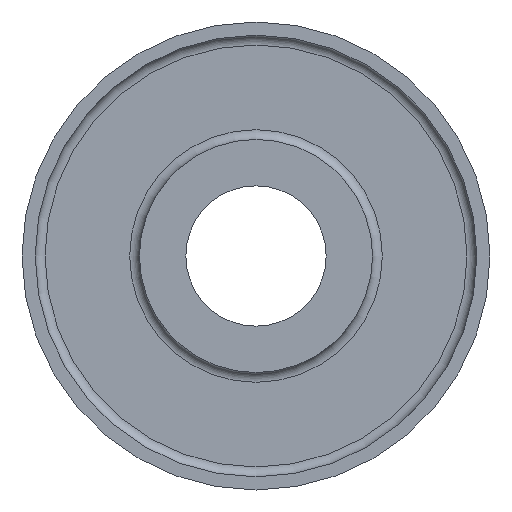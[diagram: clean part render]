
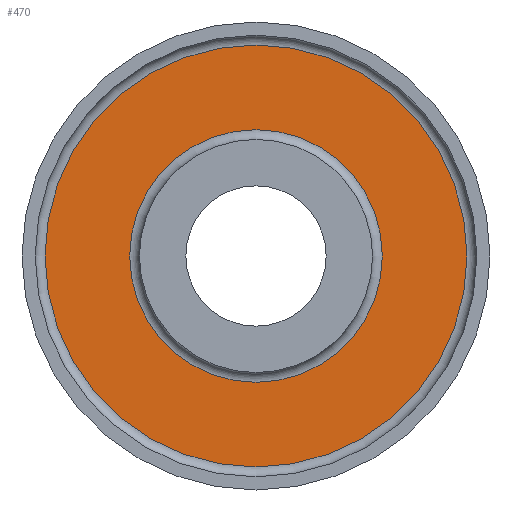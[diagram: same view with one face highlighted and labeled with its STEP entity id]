
A CAD part, left-side view. The second image highlights one B-rep face of the part: STEP entity #470.
In plain terms, the highlighted planar face has unit normal (-1, 0, 0).
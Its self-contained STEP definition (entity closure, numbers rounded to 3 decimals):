
#26=PLANE('',#543);
#40=FACE_BOUND('',#123,.T.);
#78=FACE_OUTER_BOUND('',#122,.T.);
#122=EDGE_LOOP('',(#421));
#123=EDGE_LOOP('',(#422));
#168=CIRCLE('',#542,103.);
#169=CIRCLE('',#544,172.);
#236=VERTEX_POINT('',#988);
#237=VERTEX_POINT('',#991);
#299=EDGE_CURVE('',#236,#236,#168,.T.);
#300=EDGE_CURVE('',#237,#237,#169,.T.);
#421=ORIENTED_EDGE('',*,*,#300,.F.);
#422=ORIENTED_EDGE('',*,*,#299,.T.);
#470=ADVANCED_FACE('',(#78,#40),#26,.T.);
#542=AXIS2_PLACEMENT_3D('',#989,#684,#685);
#543=AXIS2_PLACEMENT_3D('',#990,#686,#687);
#544=AXIS2_PLACEMENT_3D('',#992,#688,#689);
#684=DIRECTION('center_axis',(1.,0.,0.));
#685=DIRECTION('ref_axis',(0.,0.,-1.));
#686=DIRECTION('center_axis',(-1.,0.,0.));
#687=DIRECTION('ref_axis',(0.,0.,1.));
#688=DIRECTION('center_axis',(1.,0.,0.));
#689=DIRECTION('ref_axis',(0.,0.,-1.));
#988=CARTESIAN_POINT('',(58.139,86.439,0.));
#989=CARTESIAN_POINT('Origin',(58.139,-16.561,0.));
#990=CARTESIAN_POINT('Origin',(58.139,155.439,0.));
#991=CARTESIAN_POINT('',(58.139,155.439,0.));
#992=CARTESIAN_POINT('Origin',(58.139,-16.561,0.));
